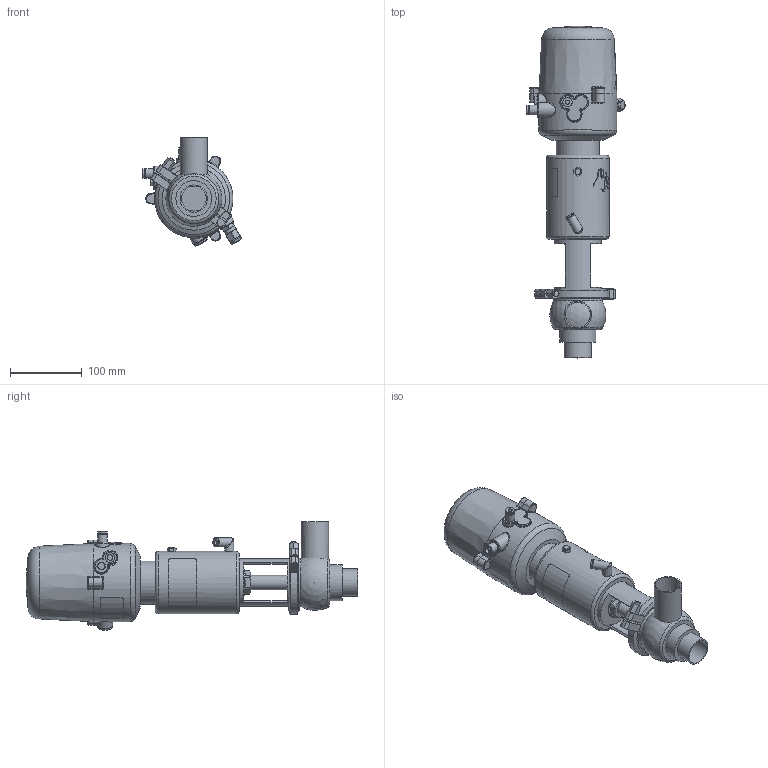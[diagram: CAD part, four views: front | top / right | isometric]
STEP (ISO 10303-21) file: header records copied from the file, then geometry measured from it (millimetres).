
FILE_DESCRIPTION (( 'STEP AP214' ), '1' );
FILE_NAME ('INNOVA N L W OD 1½ T1 AS NC & C-TOP S_10.240.16.0055.STEP', '2024-08-06T08:02:22', ( '' ), ( '' ), 'SwSTEP 2.0', 'SolidWorks 2023', '' );
FILE_SCHEMA (( 'AUTOMOTIVE_DESIGN' ));
Length unit declared in the file: millimetre
Products named in the file (7): 10.240.15.0010_DN 040; INNOVA N L W OD 1½ T1 AS NC & C-TOP S_10.240.16.0055; 10.426.15.0001_C-TOP S - 1 EV; 10.240.15.0001_DN 040; 10.240.15.0014_T1 AS P0; 10.240.15.0017_Estàndard; 10.240.15.0002_OD 1½"
Assembly tree (6 placements, depth 2):
  INNOVA N L W OD 1½ T1 AS NC & C-TOP S_10.240.16.0055
    10.240.15.0002_OD 1½"
    10.240.15.0010_DN 040
    10.240.15.0014_T1 AS P0
    10.240.15.0017_Estàndard
    10.426.15.0001_C-TOP S - 1 EV
    10.240.15.0001_DN 040
Bounding box: 136.88 x 462.5 x 151.63 mm (x, y, z)
Volume: 2533446.4 mm3; surface area: 222944.5 mm2
Topology: 6 solids, 6 shells, 1100 faces, 2644 edges, 1764 vertices
Faces by surface type: plane 375, cylinder 330, cone 191, bspline 160, torus 38, sphere 6
Full cylindrical faces by diameter (mm): 0.371 x17, 0.512 x16, 0.658 x16, 0.795 x16, 0.94 x15, 1.098 x15, 1.241 x13, 1.382 x13, 1.523 x11, 1.669 x10, 2.201 x1, 4 x2, 5.5 x2, 6 x2, 6.15 x1, 8 x4, 8.5 x1, 10 x1, 10.5 x1, 11 x2, 12.5 x3, 13 x2, 13.5 x2, 16 x1, 17 x3, 20 x3, 20.5 x1, 22 x2, 31 x1, 34.5 x3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
Entity records: 56688 total; most frequent: CARTESIAN_POINT 26724, ORIENTED_EDGE 4490, DIRECTION 3597, EDGE_CURVE 2245, VERTEX_POINT 1594, EDGE_LOOP 1547, AXIS2_PLACEMENT_3D 1470, FACE_OUTER_BOUND 1312
